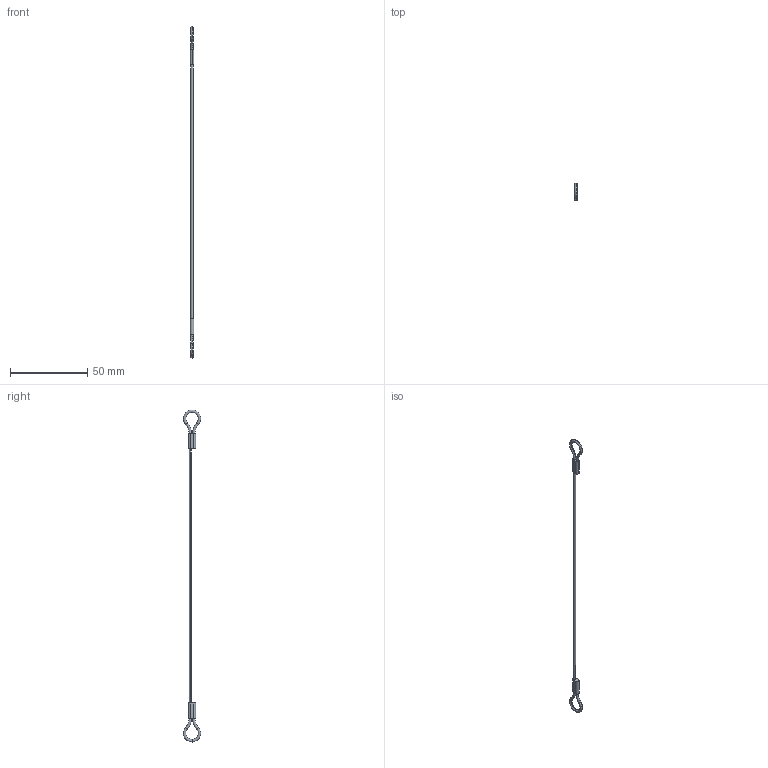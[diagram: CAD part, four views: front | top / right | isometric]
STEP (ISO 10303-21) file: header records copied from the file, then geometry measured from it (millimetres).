
FILE_DESCRIPTION (( 'STEP AP203' ), '1' );
FILE_NAME ('LA1065.I04-203B1.step', '2026-03-23T15:40:45', ( '' ), ( '' ), 'SwSTEP 2.0', 'SolidWorks 2019', '' );
FILE_SCHEMA (( 'CONFIG_CONTROL_DESIGN' ));
Length unit declared in the file: millimetre
Products named in the file (1): LA1065.I04-203B1
Bounding box: 2.4 x 11.18 x 214.37 mm (x, y, z)
Volume: 668.2 mm3; surface area: 1449.2 mm2
Topology: 1 solids, 1 shells, 30 faces, 68 edges, 42 vertices
Faces by surface type: torus 14, cylinder 8, plane 8
Entity records: 945 total; most frequent: DIRECTION 178, CARTESIAN_POINT 141, ORIENTED_EDGE 136, AXIS2_PLACEMENT_3D 79, EDGE_CURVE 68, CIRCLE 48, VERTEX_POINT 42, EDGE_LOOP 36
